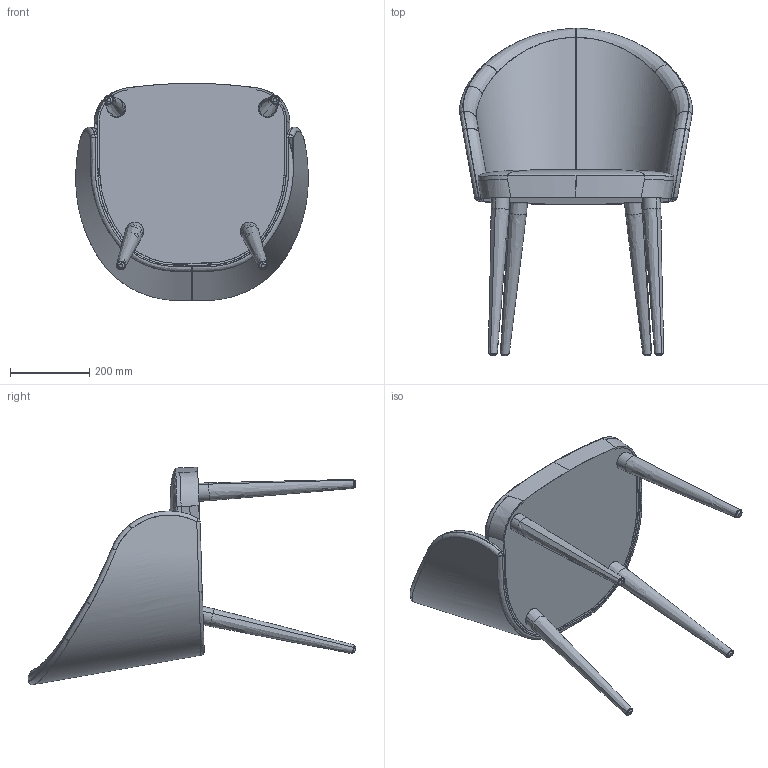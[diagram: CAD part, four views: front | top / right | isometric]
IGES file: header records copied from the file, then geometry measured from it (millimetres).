
Start section: SolidWorks IGES file using analytic representation for surfaces
Global section: file name: \\192.168.0.3\Dados\IP&C\03. Produtos MS\LEA\3D\LE001.IGS; native system: SolidWorks 2021; preprocessor: SolidWorks 2021; author: Marketing; date: 220527.083117; units: millimetre
Bounding box: 586.52 x 826.38 x 548.01 mm (x, y, z)
Surface area: 1294260.3 mm2 (no closed solid volume)
Topology: 0 solids, 0 shells, 138 faces, 4820 edges, 4801 vertices
Faces by surface type: bspline 108, revolution 30
